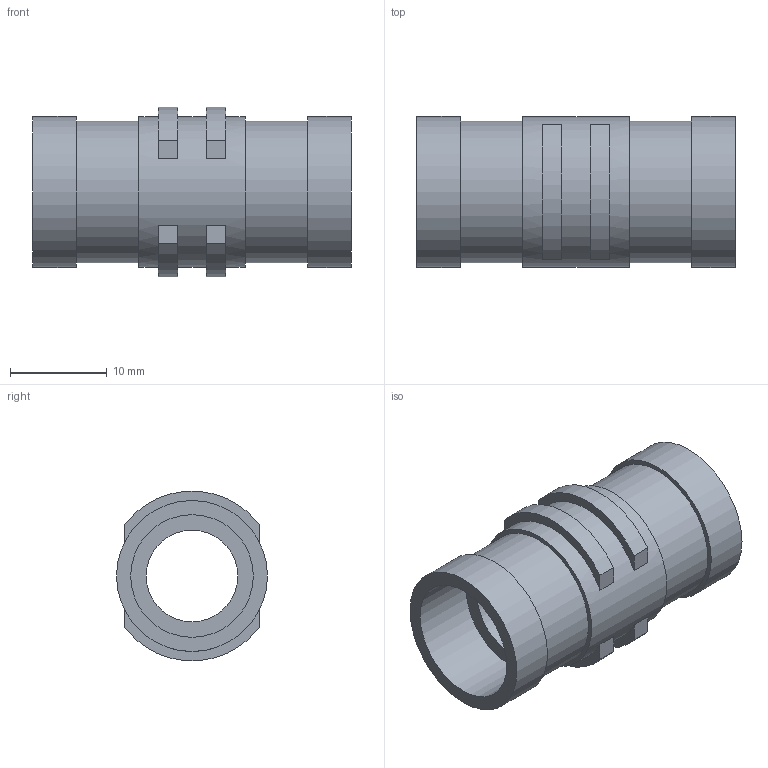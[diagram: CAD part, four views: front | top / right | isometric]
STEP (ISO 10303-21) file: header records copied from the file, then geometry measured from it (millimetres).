
FILE_DESCRIPTION( ( 'Unknown' ), '1' );
FILE_NAME( '//Sv02/01_社内情報/103_技術部/012_図面/図面/電子カタログ-3D/電子カタログ-3D元ファイル(par)/70_3D電子カタログ/01_U/インチ/70-12.7U-P.stp', 'Unknown', ( 'Unknown' ), ( 'Unknown' ), 'XStep 1.0', 'Unknown', ' ' );
FILE_SCHEMA( ( 'CONFIG_CONTROL_DESIGN' ) );
Length unit declared in the file: millimetre
Products named in the file (1): 1
Bounding box: 33 x 15.65 x 17.54 mm (x, y, z)
Volume: 3066.1 mm3; surface area: 3190.6 mm2
Topology: 1 solids, 1 shells, 36 faces, 78 edges, 52 vertices
Faces by surface type: plane 24, cylinder 12
Full cylindrical faces by diameter (mm): 9.5 x1, 12.7 x2, 14.65 x2, 15.6 x1, 15.65 x2
Entity records: 956 total; most frequent: DIRECTION 170, CARTESIAN_POINT 149, ORIENTED_EDGE 128, AXIS2_PLACEMENT_3D 69, EDGE_CURVE 64, EDGE_LOOP 56, VERTEX_POINT 48, FACE_OUTER_BOUND 44
